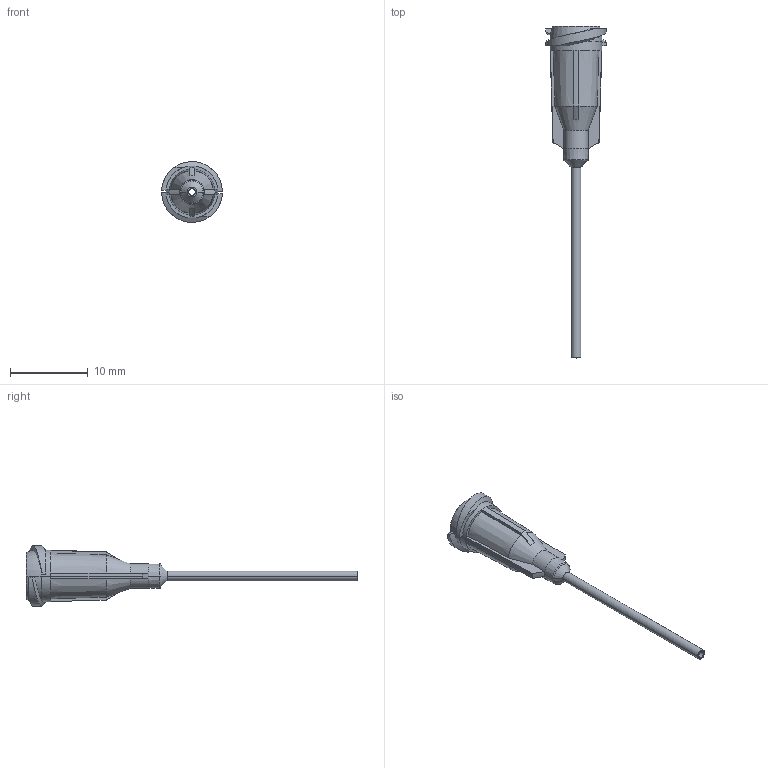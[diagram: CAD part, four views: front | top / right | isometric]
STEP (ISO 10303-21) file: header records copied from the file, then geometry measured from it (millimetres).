
FILE_DESCRIPTION (( 'STEP AP214' ), '1' );
FILE_NAME ('NORDSONEFD-7018109 TIP 18GA GP 033 X 10 GN.STEP', '2019-03-04T23:36:16', ( '' ), ( '' ), 'SwSTEP 2.0', 'SolidWorks 2019', '' );
FILE_SCHEMA (( 'AUTOMOTIVE_DESIGN' ));
Length unit declared in the file: inch
Products named in the file (1): NORDSONEFD-7018109 TIP 18GA GP 033 X 10 GN
Bounding box: 7.82 x 42.77 x 7.81 mm (x, y, z)
Volume: 277.7 mm3; surface area: 723.5 mm2
Topology: 1 solids, 1 shells, 98 faces, 228 edges, 136 vertices
Faces by surface type: plane 26, torus 22, cone 22, cylinder 16, bspline 12
Entity records: 3320 total; most frequent: CARTESIAN_POINT 997, DIRECTION 460, ORIENTED_EDGE 456, EDGE_CURVE 228, AXIS2_PLACEMENT_3D 201, VERTEX_POINT 136, CIRCLE 114, EDGE_LOOP 104
